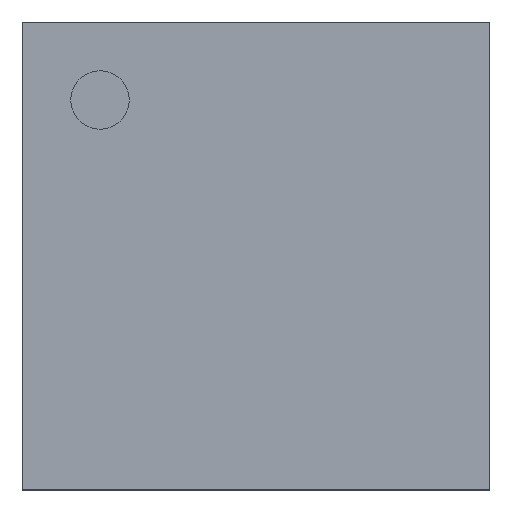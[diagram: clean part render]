
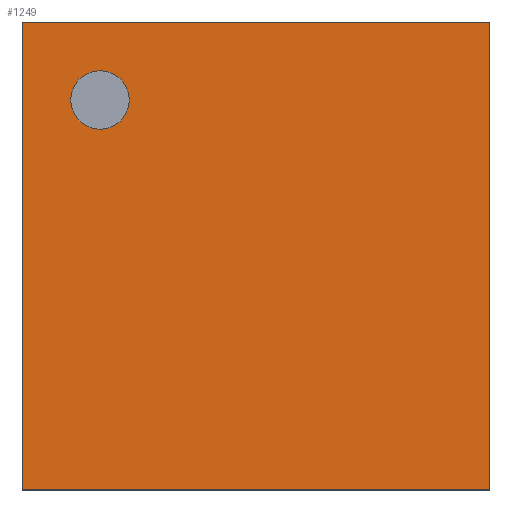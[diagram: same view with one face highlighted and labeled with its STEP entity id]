
A CAD part, top view. The second image highlights one B-rep face of the part: STEP entity #1249.
In plain terms, the highlighted planar face has unit normal (0, 0, 1).
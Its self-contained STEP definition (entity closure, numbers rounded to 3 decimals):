
#1185 = VERTEX_POINT('',#1186);
#1186 = CARTESIAN_POINT('',(0.,0.,1.171));
#1201 = VERTEX_POINT('',#1202);
#1202 = CARTESIAN_POINT('',(0.,14.,1.171));
#1208 = EDGE_CURVE('',#1185,#1201,#1209,.T.);
#1209 = LINE('',#1210,#1211);
#1210 = CARTESIAN_POINT('',(0.,0.,1.171));
#1211 = VECTOR('',#1212,1.);
#1212 = DIRECTION('',(-0.,1.,0.));
#1231 = EDGE_CURVE('',#1185,#1232,#1234,.T.);
#1232 = VERTEX_POINT('',#1233);
#1233 = CARTESIAN_POINT('',(14.,0.,1.171));
#1234 = LINE('',#1235,#1236);
#1235 = CARTESIAN_POINT('',(0.,0.,1.171));
#1236 = VECTOR('',#1237,1.);
#1237 = DIRECTION('',(1.,0.,-0.));
#1249 = ADVANCED_FACE('',(#1250,#1268),#1279,.T.);
#1250 = FACE_BOUND('',#1251,.T.);
#1251 = EDGE_LOOP('',(#1252,#1253,#1254,#1262));
#1252 = ORIENTED_EDGE('',*,*,#1208,.F.);
#1253 = ORIENTED_EDGE('',*,*,#1231,.T.);
#1254 = ORIENTED_EDGE('',*,*,#1255,.T.);
#1255 = EDGE_CURVE('',#1232,#1256,#1258,.T.);
#1256 = VERTEX_POINT('',#1257);
#1257 = CARTESIAN_POINT('',(14.,14.,1.171));
#1258 = LINE('',#1259,#1260);
#1259 = CARTESIAN_POINT('',(14.,0.,1.171));
#1260 = VECTOR('',#1261,1.);
#1261 = DIRECTION('',(-0.,1.,0.));
#1262 = ORIENTED_EDGE('',*,*,#1263,.F.);
#1263 = EDGE_CURVE('',#1201,#1256,#1264,.T.);
#1264 = LINE('',#1265,#1266);
#1265 = CARTESIAN_POINT('',(0.,14.,1.171));
#1266 = VECTOR('',#1267,1.);
#1267 = DIRECTION('',(1.,0.,-0.));
#1268 = FACE_BOUND('',#1269,.T.);
#1269 = EDGE_LOOP('',(#1270));
#1270 = ORIENTED_EDGE('',*,*,#1271,.F.);
#1271 = EDGE_CURVE('',#1272,#1272,#1274,.T.);
#1272 = VERTEX_POINT('',#1273);
#1273 = CARTESIAN_POINT('',(3.208,11.667,1.171));
#1274 = CIRCLE('',#1275,0.875);
#1275 = AXIS2_PLACEMENT_3D('',#1276,#1277,#1278);
#1276 = CARTESIAN_POINT('',(2.333,11.667,1.171));
#1277 = DIRECTION('',(0.,0.,1.));
#1278 = DIRECTION('',(1.,0.,-0.));
#1279 = PLANE('',#1280);
#1280 = AXIS2_PLACEMENT_3D('',#1281,#1282,#1283);
#1281 = CARTESIAN_POINT('',(0.,0.,1.171));
#1282 = DIRECTION('',(0.,0.,1.));
#1283 = DIRECTION('',(1.,0.,-0.));
